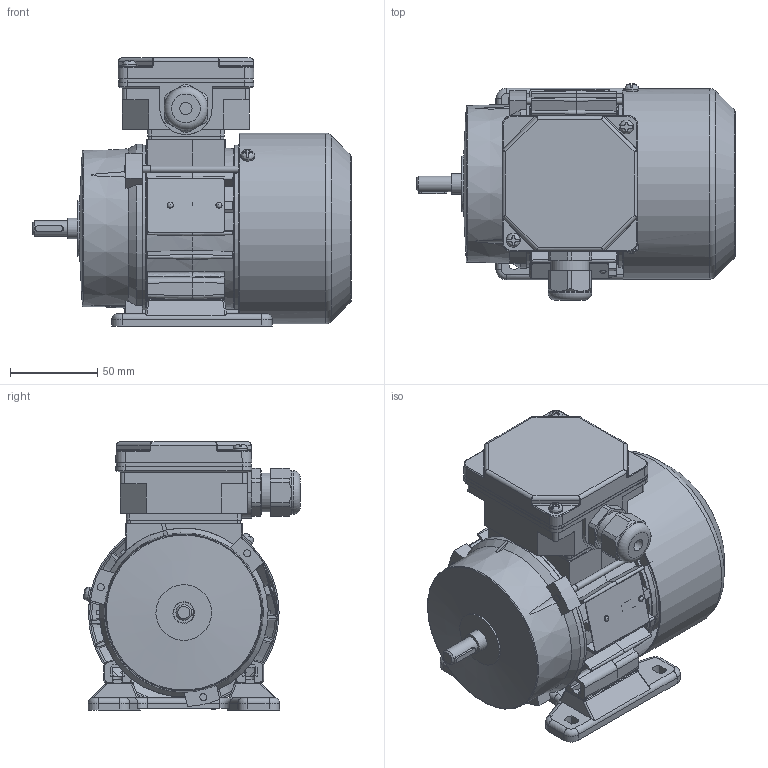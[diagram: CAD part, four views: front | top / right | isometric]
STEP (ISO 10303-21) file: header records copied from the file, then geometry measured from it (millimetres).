
FILE_DESCRIPTION( ( 'Unknown' ), '1' );
FILE_NAME( 'G:/Poczta Tk-1/STP/w.m.56/Sh56/Sh56-A.stp', 'Unknown', ( 'K. Szlosek' ), ( 'BESEL S.A.' ), 'PSStep 17.0.49', 'Unknown', ' ' );
FILE_SCHEMA( ( 'AUTOMOTIVE_DESIGN { 1 0 10303 214 1 1 1 1 }' ) );
Length unit declared in the file: millimetre
Products named in the file (29): Assem1; K4-2320 Uszczelka nr 1 Sh71,80; K3-9987 kadłub ze stojanem Sh56-B; K3-2193 Tarcza łożyskowa P Sg56-2..; K3-9990 wał Sh56-B; K2-0860 Pokrywka skrzynki zaciskowej; Wpust A3x3x16; K4-2820 Uszczelka nr 2 Sh71,80; Wkręt samogwintujący M4x8; Wkręt samogwintujący M4x16; K2-0879 Przewietrznik Sg56; Nitokołek A 2x6; K3-2200 Tarcza łożyskowa N Sg56-...; K1-0484 Łapa Sg56-.. w. robocza; K3-11363 Osłona przewietrznika Sh 56_A; K2-0859 Podstawa skrzynki 6-cio zaciskowej; Dławnica M20x1,5; Łożysko 6201; Tabliczka znamionowa 32x44; Śruba ściągająca E_M4x75
Assembly tree (44 placements, depth 2):
  Assem1
    K4-2320 Uszczelka nr 1 Sh71,80
    K3-9987 kadłub ze stojanem Sh56-B
    K3-2193 Tarcza łożyskowa P Sg56-2..
    K3-9990 wał Sh56-B
    K2-0860 Pokrywka skrzynki zaciskowej
    Wpust A3x3x16
    K4-2820 Uszczelka nr 2 Sh71,80
    Wkręt samogwintujący M4x8  x3
    Wkręt samogwintujący M4x16  x2
    K2-0879 Przewietrznik Sg56
    Nitokołek A 2x6  x2
    K3-2200 Tarcza łożyskowa N Sg56-...
    K1-0484 Łapa Sg56-.. w. robocza
    K3-11363 Osłona przewietrznika Sh 56_A
    K2-0859 Podstawa skrzynki 6-cio zaciskowej
    Dławnica M20x1,5
    Łożysko 6201  x2
    Łożysko 6201  x2
    Łożysko 6201  x2
    Łożysko 6201  x2
    Łożysko 6201  x2
    Łożysko 6201  x2
    Łożysko 6201  x2
    Łożysko 6201  x2
    Łożysko 6201  x2
    Łożysko 6201  x2
    Tabliczka znamionowa 32x44
    Śruba ściągająca E_M4x75  x3
Bounding box: 183 x 124.54 x 154 mm (x, y, z)
Volume: 417563 mm3; surface area: 301603.4 mm2
Topology: 44 solids, 60 shells, 1866 faces, 5069 edges, 3278 vertices
Faces by surface type: plane 980, cylinder 529, torus 135, cone 120, bspline 68, sphere 34
Full cylindrical faces by diameter (mm): 2 x2, 2.4 x2, 3.3 x3, 3.7 x10, 4 x8, 4.5 x4, 4.6 x1, 4.8 x4, 5 x4, 5.8 x4, 7 x4, 8 x6, 9 x1, 10.9 x1, 11 x1, 11.5 x1, 11.8 x2, 12 x4, 12.4 x2, 15.5 x1, 16 x1, 16.1 x1, 17 x2, 18 x1, 18.376 x1, 18.38 x1, 18.52 x4, 20 x1, 22.3 x1, 24 x2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
Entity records: 76849 total; most frequent: CARTESIAN_POINT 20337, ORIENTED_EDGE 8798, DIRECTION 8746, EDGE_CURVE 4399, AXIS2_PLACEMENT_3D 3242, VERTEX_POINT 2969, LINE 2262, VECTOR 2262
